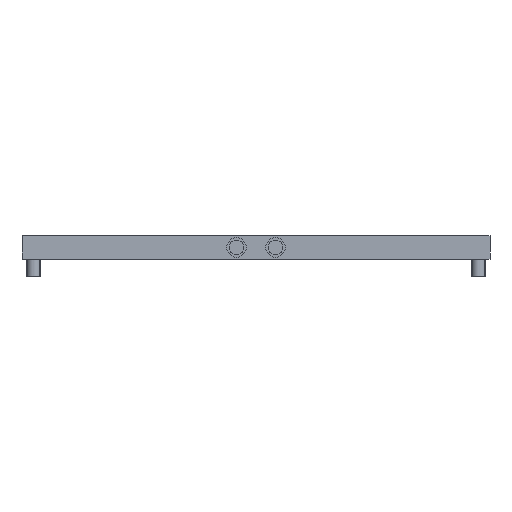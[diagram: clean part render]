
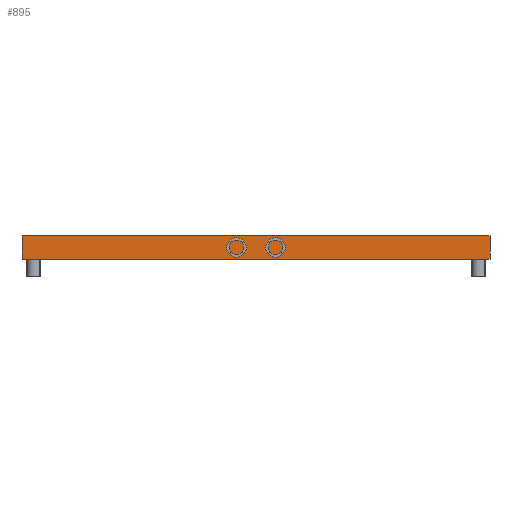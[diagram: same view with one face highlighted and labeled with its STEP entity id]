
A CAD part, front view. The second image highlights one B-rep face of the part: STEP entity #895.
In plain terms, the highlighted planar face has unit normal (0, -1, 0).
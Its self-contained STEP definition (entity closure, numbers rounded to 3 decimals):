
#264=FACE_OUTER_BOUND('',#325,.T.);
#325=EDGE_LOOP('',(#672,#673,#674,#675));
#397=VERTEX_POINT('',#1882);
#399=VERTEX_POINT('',#1886);
#401=VERTEX_POINT('',#1892);
#403=VERTEX_POINT('',#1900);
#496=EDGE_CURVE('',#399,#397,#1012,.T.);
#499=EDGE_CURVE('',#399,#401,#1015,.T.);
#503=EDGE_CURVE('',#401,#403,#1019,.T.);
#504=EDGE_CURVE('',#397,#403,#1020,.T.);
#672=ORIENTED_EDGE('',*,*,#503,.T.);
#673=ORIENTED_EDGE('',*,*,#504,.F.);
#674=ORIENTED_EDGE('',*,*,#496,.F.);
#675=ORIENTED_EDGE('',*,*,#499,.T.);
#849=PLANE('',#1271);
#895=ADVANCED_FACE('',(#264),#849,.T.);
#1012=LINE('',#1888,#1098);
#1015=LINE('',#1894,#1101);
#1019=LINE('',#1902,#1105);
#1020=LINE('',#1904,#1106);
#1098=VECTOR('',#1489,10.);
#1101=VECTOR('',#1494,10.);
#1105=VECTOR('',#1502,10.);
#1106=VECTOR('',#1505,10.);
#1271=AXIS2_PLACEMENT_3D('',#1905,#1506,#1507);
#1489=DIRECTION('',(-1.,0.,0.));
#1494=DIRECTION('',(0.,0.,1.));
#1502=DIRECTION('',(-1.,0.,0.));
#1505=DIRECTION('',(0.,0.,1.));
#1506=DIRECTION('center_axis',(0.,-1.,0.));
#1507=DIRECTION('ref_axis',(0.,0.,-1.));
#1882=CARTESIAN_POINT('',(-15.,-15.,0.));
#1886=CARTESIAN_POINT('',(15.,-15.,0.));
#1888=CARTESIAN_POINT('',(7.5,-15.,0.));
#1892=CARTESIAN_POINT('',(15.,-15.,600.));
#1894=CARTESIAN_POINT('',(15.,-15.,0.));
#1900=CARTESIAN_POINT('',(-15.,-15.,600.));
#1902=CARTESIAN_POINT('',(7.5,-15.,600.));
#1904=CARTESIAN_POINT('',(-15.,-15.,0.));
#1905=CARTESIAN_POINT('Origin',(15.,-15.,0.));
